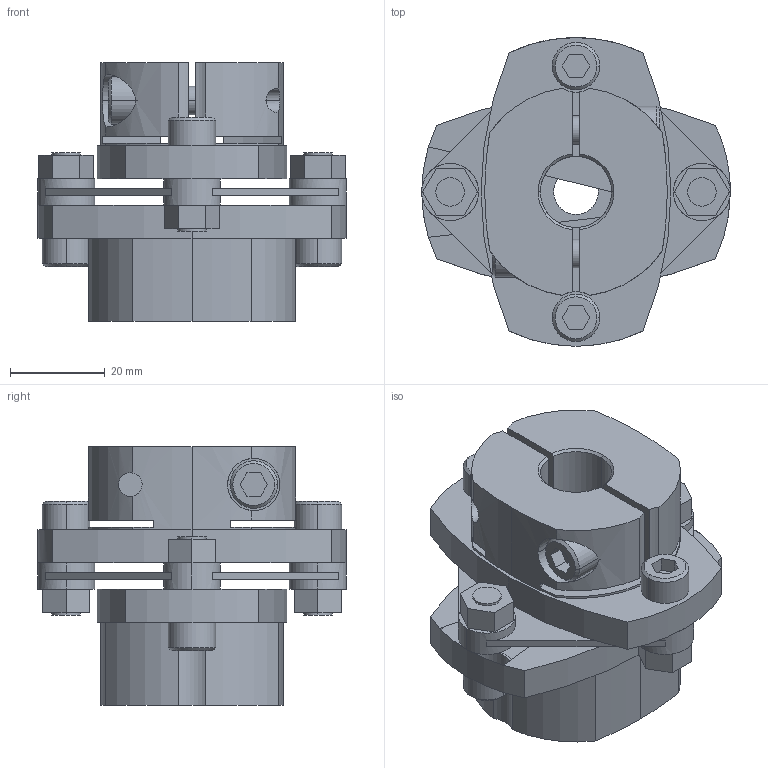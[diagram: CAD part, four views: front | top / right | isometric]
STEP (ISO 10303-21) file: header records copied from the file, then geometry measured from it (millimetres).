
FILE_DESCRIPTION((''),'2;1');
FILE_NAME('LCS-65M-11L亊15B.stp','2015-10-28T03:04:18',(''),(''),'AutoCAD STEP 2000i','AutoCAD 2000i',', , ');
FILE_SCHEMA(('CONFIG_CONTROL_DESIGN'));
Length unit declared in the file: millimetre
Products named in the file (6): LCS-65M-11L×14B; 忣兜1; LC65M-L011; LC65-B014-1; LC65-B014; LCS65-ITA
Assembly tree (5 placements, depth 2):
  LCS-65M-11L×14B
    忣兜1
    LC65M-L011
    LC65-B014-1
    LC65-B014
    LCS65-ITA
Bounding box: 65 x 65 x 54.5 mm (x, y, z)
Volume: 78571.1 mm3; surface area: 26891.5 mm2
Topology: 1 solids, 1 shells, 228 faces, 602 edges, 394 vertices
Faces by surface type: plane 115, cylinder 92, cone 21
Entity records: 7591 total; most frequent: CARTESIAN_POINT 1570, DIRECTION 1286, ORIENTED_EDGE 1204, EDGE_CURVE 602, AXIS2_PLACEMENT_3D 472, VERTEX_POINT 394, VECTOR 342, LINE 342
